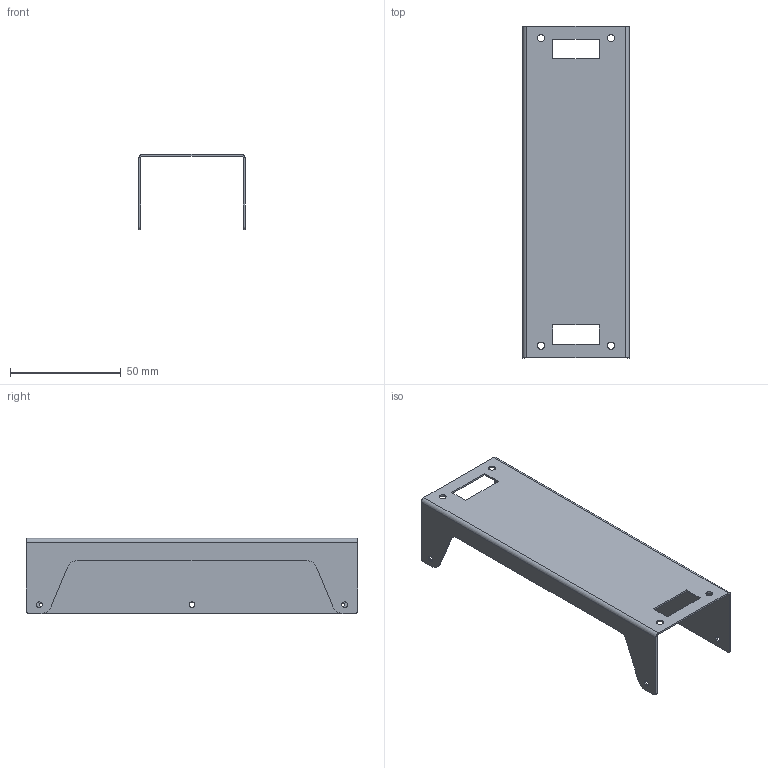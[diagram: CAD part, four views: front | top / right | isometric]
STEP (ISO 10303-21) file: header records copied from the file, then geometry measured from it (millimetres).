
FILE_DESCRIPTION(('STEP AP203'), '1');
FILE_NAME('署赅 _ IEF-5.5_15.5-4 G3', '', ('UNSPECIFIED'), ('UNSPECIFIED'), 'C3D Converter', 'C3D Toolkit', '');
FILE_SCHEMA(('CONFIG_CONTROL_DESIGN'));
Length unit declared in the file: millimetre
Products named in the file (1): IEF-5.5/15.5-4 G3
Bounding box: 48 x 150 x 34 mm (x, y, z)
Volume: 10935.6 mm3; surface area: 27941.3 mm2
Topology: 1 solids, 1 shells, 51 faces, 131 edges, 82 vertices
Faces by surface type: plane 30, cylinder 21
Full cylindrical faces by diameter (mm): 2.6 x5, 3.2 x4
Entity records: 1986 total; most frequent: DIRECTION 268, CARTESIAN_POINT 256, ORIENTED_EDGE 244, EDGE_CURVE 122, AXIS2_PLACEMENT_3D 94, EDGE_LOOP 82, VERTEX_POINT 82, LINE 80
